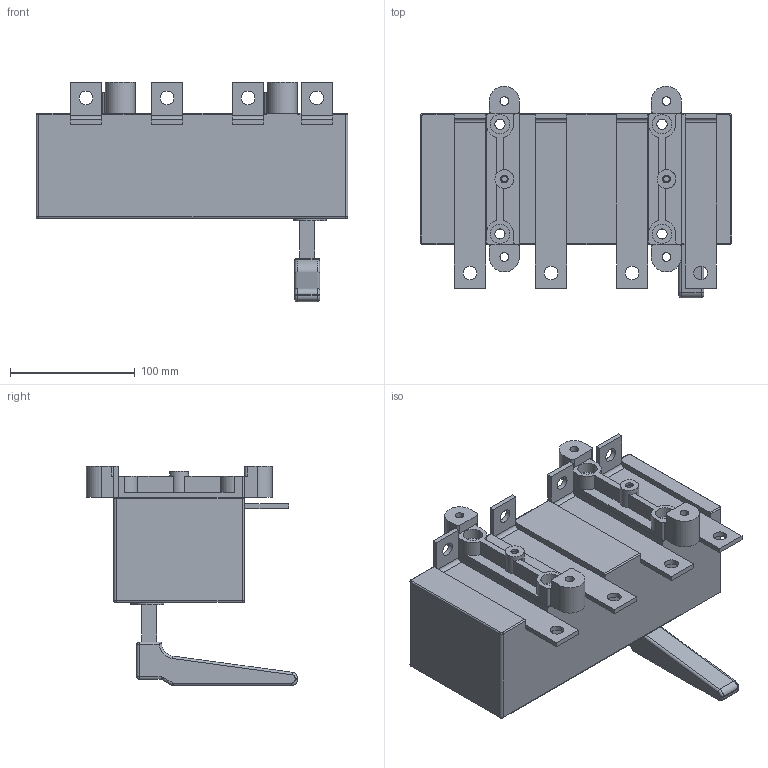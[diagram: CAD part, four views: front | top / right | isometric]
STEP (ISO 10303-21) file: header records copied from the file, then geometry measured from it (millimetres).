
FILE_DESCRIPTION(/* description */ (''),/* implementation_level */ '2;1');
FILE_NAME(/* name */ 'RA400 P3 NB-R.stp',/* time_stamp */ '2021-08-18T14:20:44+02:00',/* author */ (''),/* organization */ (''),/* preprocessor_version */ 'ST-DEVELOPER v18.1',/* originating_system */ 'SIEMENS PLM Software NX 1965',/* authorisation */ '');
FILE_SCHEMA (('PROCESS_PLANNING_SCHEMA'));
Length unit declared in the file: millimetre
Products named in the file (1): RA400 P3 NB-R_stp
Bounding box: 250 x 169.5 x 176 mm (x, y, z)
Volume: 2291611.3 mm3; surface area: 175449.3 mm2
Topology: 1 solids, 1 shells, 286 faces, 735 edges, 460 vertices
Faces by surface type: plane 145, cylinder 119, torus 13, sphere 6, bspline 3
Full cylindrical faces by diameter (mm): 4.8 x2, 6.2 x2, 7 x4, 8.2 x4, 11 x8, 14 x4, 15 x2, 15.5 x4
Entity records: 8574 total; most frequent: DIRECTION 1525, CARTESIAN_POINT 1515, ORIENTED_EDGE 1390, EDGE_CURVE 695, AXIS2_PLACEMENT_3D 550, VERTEX_POINT 456, LINE 425, VECTOR 425
